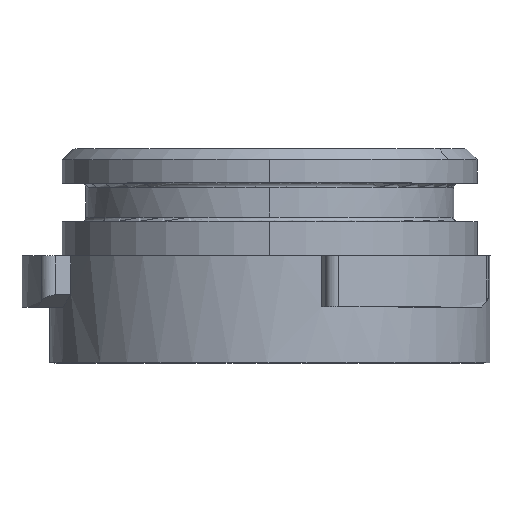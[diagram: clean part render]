
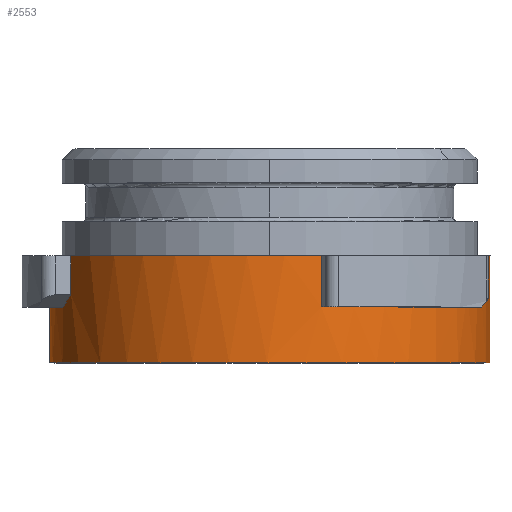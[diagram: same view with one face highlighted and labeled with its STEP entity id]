
A CAD part, top view. The second image highlights one B-rep face of the part: STEP entity #2553.
In plain terms, the highlighted cylindrical face has radius 10.3 mm (diameter 20.6 mm), a partial arc.
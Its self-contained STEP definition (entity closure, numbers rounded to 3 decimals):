
#686=AXIS2_PLACEMENT_3D('Circle Axis2P3D',#684,#685,$) ;
#2265=AXIS2_PLACEMENT_3D('Cylinder Axis2P3D',#2262,#2263,#2264) ;
#2480=AXIS2_PLACEMENT_3D('Circle Axis2P3D',#2478,#2479,$) ;
#2492=AXIS2_PLACEMENT_3D('Circle Axis2P3D',#2490,#2491,$) ;
#2529=AXIS2_PLACEMENT_3D('Circle Axis2P3D',#2527,#2528,$) ;
#681=CARTESIAN_POINT('Vertex',(10.297,-351.905,-70.23)) ;
#684=CARTESIAN_POINT('Axis2P3D Location',(0.,-351.905,-70.486)) ;
#688=CARTESIAN_POINT('Vertex',(-10.3,-351.905,-70.486)) ;
#2169=CARTESIAN_POINT('Vertex',(-9.679,-349.305,-66.963)) ;
#2173=CARTESIAN_POINT('Control Point',(-9.291,-348.728,-66.04)) ;
#2174=CARTESIAN_POINT('Control Point',(-9.377,-348.844,-66.221)) ;
#2175=CARTESIAN_POINT('Control Point',(-9.459,-348.959,-66.404)) ;
#2176=CARTESIAN_POINT('Control Point',(-9.537,-349.075,-66.589)) ;
#2177=CARTESIAN_POINT('Control Point',(-9.61,-349.19,-66.775)) ;
#2178=CARTESIAN_POINT('Control Point',(-9.679,-349.305,-66.963)) ;
#2179=CARTESIAN_POINT('Vertex',(-9.291,-348.728,-66.04)) ;
#2212=CARTESIAN_POINT('Line Origine',(-9.291,-347.817,-66.04)) ;
#2216=CARTESIAN_POINT('Vertex',(-9.291,-346.905,-66.04)) ;
#2240=CARTESIAN_POINT('Vertex',(9.224,-348.728,-65.902)) ;
#2243=CARTESIAN_POINT('Line Origine',(9.224,-347.817,-65.902)) ;
#2247=CARTESIAN_POINT('Vertex',(9.224,-346.905,-65.902)) ;
#2262=CARTESIAN_POINT('Axis2P3D Location',(0.,-349.405,-70.486)) ;
#2278=CARTESIAN_POINT('Vertex',(10.297,-346.905,-70.23)) ;
#2281=CARTESIAN_POINT('Line Origine',(10.297,-342.515,-70.23)) ;
#2317=CARTESIAN_POINT('Vertex',(-10.3,-349.305,-70.486)) ;
#2321=CARTESIAN_POINT('Control Point',(-10.3,-349.305,-70.486)) ;
#2322=CARTESIAN_POINT('Control Point',(-10.3,-349.305,-69.767)) ;
#2323=CARTESIAN_POINT('Control Point',(-10.236,-349.305,-69.048)) ;
#2324=CARTESIAN_POINT('Control Point',(-10.111,-349.305,-68.336)) ;
#2325=CARTESIAN_POINT('Control Point',(-9.925,-349.305,-67.639)) ;
#2326=CARTESIAN_POINT('Control Point',(-9.679,-349.305,-66.963)) ;
#2356=CARTESIAN_POINT('Line Origine',(-10.3,-342.515,-70.486)) ;
#2428=CARTESIAN_POINT('Vertex',(8.735,-349.305,-65.028)) ;
#2432=CARTESIAN_POINT('Control Point',(9.224,-348.728,-65.902)) ;
#2433=CARTESIAN_POINT('Control Point',(9.135,-348.844,-65.723)) ;
#2434=CARTESIAN_POINT('Control Point',(9.041,-348.959,-65.546)) ;
#2435=CARTESIAN_POINT('Control Point',(8.943,-349.075,-65.371)) ;
#2436=CARTESIAN_POINT('Control Point',(8.841,-349.19,-65.198)) ;
#2437=CARTESIAN_POINT('Control Point',(8.735,-349.305,-65.028)) ;
#2478=CARTESIAN_POINT('Axis2P3D Location',(0.,-346.905,-70.486)) ;
#2482=CARTESIAN_POINT('Vertex',(2.417,-346.905,-60.474)) ;
#2490=CARTESIAN_POINT('Axis2P3D Location',(0.,-346.905,-70.486)) ;
#2527=CARTESIAN_POINT('Axis2P3D Location',(0.,-349.305,-70.486)) ;
#2531=CARTESIAN_POINT('Vertex',(2.417,-349.305,-60.474)) ;
#2534=CARTESIAN_POINT('Line Origine',(2.417,-342.515,-60.474)) ;
#685=DIRECTION('Axis2P3D Direction',(-0.,1.,0.)) ;
#2213=DIRECTION('Vector Direction',(0.,1.,0.)) ;
#2244=DIRECTION('Vector Direction',(0.,1.,0.)) ;
#2263=DIRECTION('Axis2P3D Direction',(0.,-1.,-0.)) ;
#2264=DIRECTION('Axis2P3D XDirection',(1.,0.,0.)) ;
#2282=DIRECTION('Vector Direction',(0.,-1.,0.)) ;
#2357=DIRECTION('Vector Direction',(0.,-1.,0.)) ;
#2479=DIRECTION('Axis2P3D Direction',(-0.,1.,0.)) ;
#2491=DIRECTION('Axis2P3D Direction',(-0.,1.,0.)) ;
#2528=DIRECTION('Axis2P3D Direction',(0.,-1.,-0.)) ;
#2535=DIRECTION('Vector Direction',(0.,-1.,0.)) ;
#2214=VECTOR('Line Direction',#2213,1.) ;
#2245=VECTOR('Line Direction',#2244,1.) ;
#2283=VECTOR('Line Direction',#2282,1.) ;
#2358=VECTOR('Line Direction',#2357,1.) ;
#2536=VECTOR('Line Direction',#2535,1.) ;
#2540=ORIENTED_EDGE('',*,*,#2285,.T.) ;
#2541=ORIENTED_EDGE('',*,*,#2494,.T.) ;
#2542=ORIENTED_EDGE('',*,*,#2249,.T.) ;
#2543=ORIENTED_EDGE('',*,*,#2438,.F.) ;
#2544=ORIENTED_EDGE('',*,*,#2533,.F.) ;
#2545=ORIENTED_EDGE('',*,*,#2538,.F.) ;
#2546=ORIENTED_EDGE('',*,*,#2484,.T.) ;
#2547=ORIENTED_EDGE('',*,*,#2218,.T.) ;
#2548=ORIENTED_EDGE('',*,*,#2181,.F.) ;
#2549=ORIENTED_EDGE('',*,*,#2327,.F.) ;
#2550=ORIENTED_EDGE('',*,*,#2360,.F.) ;
#2551=ORIENTED_EDGE('',*,*,#690,.F.) ;
#2553=ADVANCED_FACE('\X2\538B76D6\X0\.1.1.2\\\X2\96F64EF651E04F554F53\X0\',(#2552),#2266,.T.) ;
#2172=B_SPLINE_CURVE_WITH_KNOTS('',5,(#2173,#2174,#2175,#2176,#2177,#2178),.UNSPECIFIED.,.F.,.U.,(6,6),(0.,1.635),.UNSPECIFIED.) ;
#2320=B_SPLINE_CURVE_WITH_KNOTS('',5,(#2321,#2322,#2323,#2324,#2325,#2326),.UNSPECIFIED.,.F.,.U.,(6,6),(0.363,5.455),.UNSPECIFIED.) ;
#2431=B_SPLINE_CURVE_WITH_KNOTS('',5,(#2432,#2433,#2434,#2435,#2436,#2437),.UNSPECIFIED.,.F.,.U.,(6,6),(0.,1.635),.UNSPECIFIED.) ;
#687=CIRCLE('generated circle',#686,10.3) ;
#2481=CIRCLE('generated circle',#2480,10.3) ;
#2493=CIRCLE('generated circle',#2492,10.3) ;
#2530=CIRCLE('generated circle',#2529,10.3) ;
#2266=CYLINDRICAL_SURFACE('generated cylinder',#2265,10.3) ;
#690=EDGE_CURVE('',#682,#689,#687,.F.) ;
#2181=EDGE_CURVE('',#2170,#2180,#2172,.F.) ;
#2218=EDGE_CURVE('',#2217,#2180,#2215,.F.) ;
#2249=EDGE_CURVE('',#2248,#2241,#2246,.F.) ;
#2285=EDGE_CURVE('',#682,#2279,#2284,.F.) ;
#2327=EDGE_CURVE('',#2318,#2170,#2320,.T.) ;
#2360=EDGE_CURVE('',#689,#2318,#2359,.F.) ;
#2438=EDGE_CURVE('',#2429,#2241,#2431,.F.) ;
#2484=EDGE_CURVE('',#2483,#2217,#2481,.F.) ;
#2494=EDGE_CURVE('',#2279,#2248,#2493,.F.) ;
#2533=EDGE_CURVE('',#2532,#2429,#2530,.F.) ;
#2538=EDGE_CURVE('',#2483,#2532,#2537,.T.) ;
#2539=EDGE_LOOP('',(#2540,#2541,#2542,#2543,#2544,#2545,#2546,#2547,#2548,#2549,#2550,#2551)) ;
#2552=FACE_OUTER_BOUND('',#2539,.T.) ;
#2215=LINE('Line',#2212,#2214) ;
#2246=LINE('Line',#2243,#2245) ;
#2284=LINE('Line',#2281,#2283) ;
#2359=LINE('Line',#2356,#2358) ;
#2537=LINE('Line',#2534,#2536) ;
#682=VERTEX_POINT('',#681) ;
#689=VERTEX_POINT('',#688) ;
#2170=VERTEX_POINT('',#2169) ;
#2180=VERTEX_POINT('',#2179) ;
#2217=VERTEX_POINT('',#2216) ;
#2241=VERTEX_POINT('',#2240) ;
#2248=VERTEX_POINT('',#2247) ;
#2279=VERTEX_POINT('',#2278) ;
#2318=VERTEX_POINT('',#2317) ;
#2429=VERTEX_POINT('',#2428) ;
#2483=VERTEX_POINT('',#2482) ;
#2532=VERTEX_POINT('',#2531) ;
